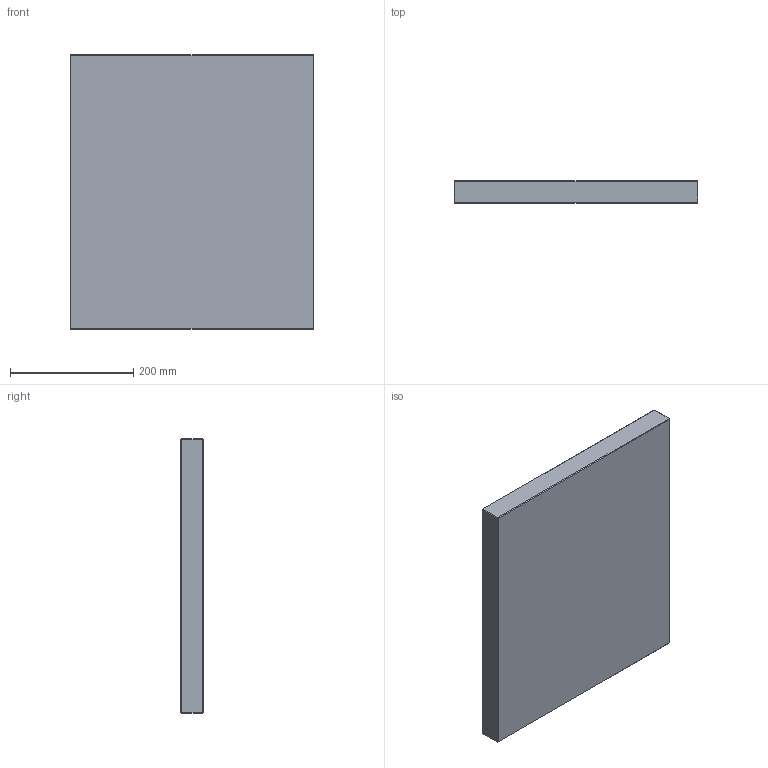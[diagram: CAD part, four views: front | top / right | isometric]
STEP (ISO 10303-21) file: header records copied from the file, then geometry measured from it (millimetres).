
FILE_DESCRIPTION (( 'STEP AP214' ), '1' );
FILE_NAME ('PBAV-P-396x396x36.STEP', '2020-03-25T16:39:14', ( 'August' ), ( '' ), 'SwSTEP 2.0', 'SolidWorks 2018', '' );
FILE_SCHEMA (( 'AUTOMOTIVE_DESIGN' ));
Length unit declared in the file: millimetre
Products named in the file (1): PBAV-P-396x396x36
Bounding box: 396 x 36 x 446 mm (x, y, z)
Volume: 6356425.3 mm3; surface area: 411795.7 mm2
Topology: 1 solids, 1 shells, 26 faces, 48 edges, 24 vertices
Faces by surface type: plane 26
Entity records: 634 total; most frequent: DIRECTION 102, CARTESIAN_POINT 99, ORIENTED_EDGE 96, VECTOR 48, EDGE_CURVE 48, LINE 48, AXIS2_PLACEMENT_3D 27, FACE_OUTER_BOUND 26
